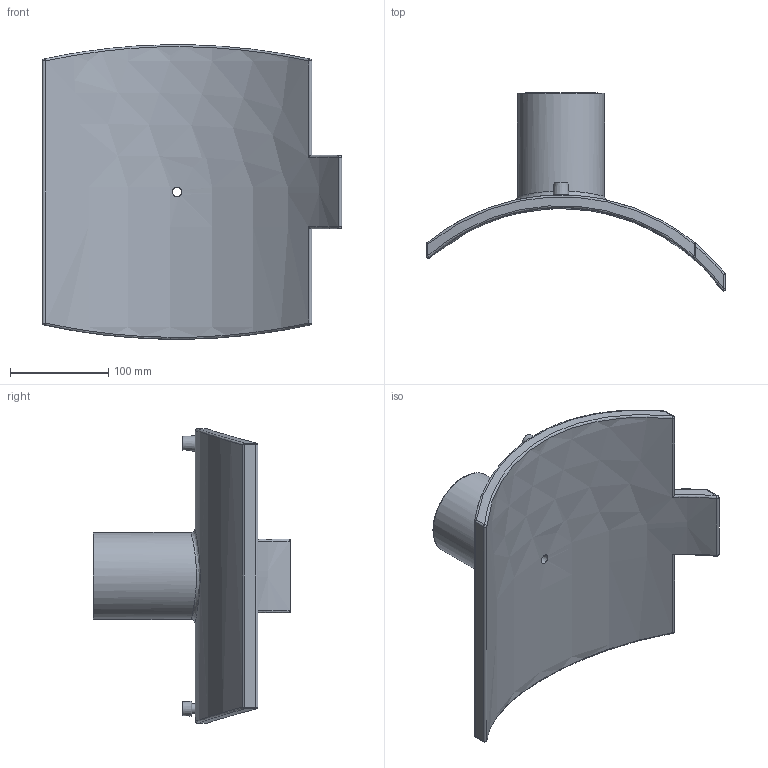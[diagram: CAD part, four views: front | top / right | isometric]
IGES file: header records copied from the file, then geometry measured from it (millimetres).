
Global section: file name: 5958BB03160030.ipt; native system: Autodesk Inventor 2019; preprocessor: unknown; author: KIM; date: 20210830.101228; units: inch
Bounding box: 304.8 x 201.5 x 299.76 mm (x, y, z)
Volume: 1401671.6 mm3; surface area: 251636.6 mm2
Topology: 2 solids, 2 shells, 66 faces, 132 edges, 78 vertices
Faces by surface type: cylinder 22, plane 14, sphere 12, revolution 11, bspline 5, cone 2
Full cylindrical faces by diameter (mm): 4 x2, 16 x1, 88.7 x1
